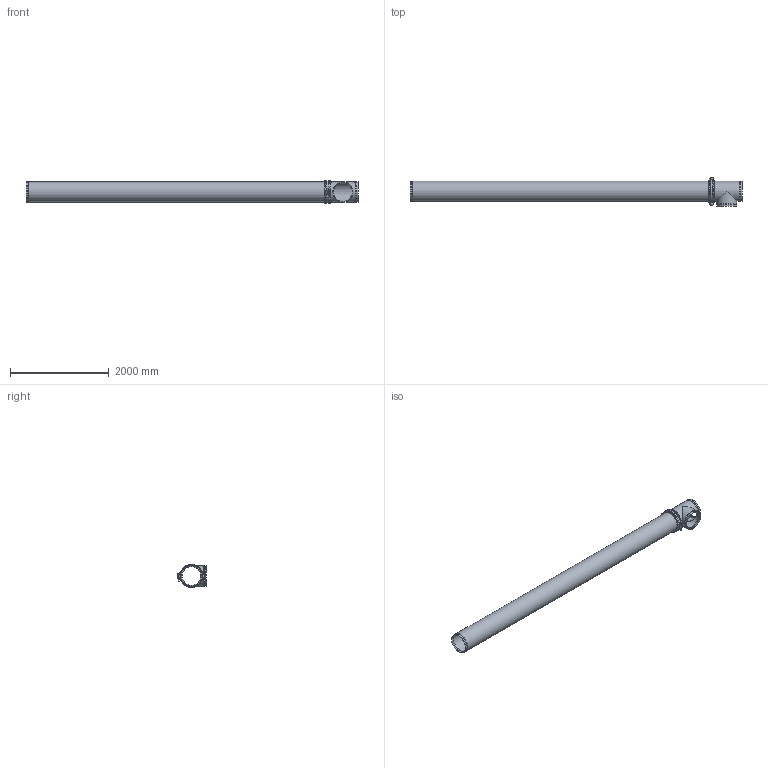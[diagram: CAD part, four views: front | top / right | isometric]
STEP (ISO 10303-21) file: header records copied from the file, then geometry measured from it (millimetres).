
FILE_DESCRIPTION(/* description */ ('VIC AGS LONG RUN FITTING No WR22 (AGS)','CAx-IF Rec.Pracs.---Representation and Presentation of Product Manufacturing Information (PMI)---4.0---2014-10-13'),/* implementation_level */ '2;1');
FILE_NAME(/* name */ 'C:\Users\kkamble\AppData\Roaming\Autodesk\ApplicationPlugins\Back Up\Victaulic_AGS_Long Run Fittings_No WR22 (AGS)\Victaulic_AGS_Long Run Fittings_No WR22 (AGS)_16 (400).stp',/* time_stamp */ '2020-10-07T02:49:26+05:00',/* author */ ('kkamble'),/* organization */ ('Victaulic'),/* preprocessor_version */ 'ST-DEVELOPER v17.2',/* originating_system */ 'Autodesk Inventor 2019',/* authorisation */ '');
FILE_SCHEMA (('AP242_MANAGED_MODEL_BASED_3D_ENGINEERING_MIM_LF { 1 0 10303 442 1 1 4 }'));
Length unit declared in the file: inch
Products named in the file (4): WR22-16.0; WR22-16.0_1; W77-16.0; W20-16.0
Assembly tree (3 placements, depth 2):
  WR22-16.0
    WR22-16.0_1
    W77-16.0
    W20-16.0
Bounding box: 6713.47 x 584.2 x 463.46 mm (x, y, z)
Volume: 85112664.5 mm3; surface area: 17450414 mm2
Topology: 3 solids, 5 shells, 308 faces, 917 edges, 633 vertices
Faces by surface type: cylinder 129, plane 108, torus 56, cone 13, sphere 2
Full cylindrical faces by diameter (mm): 25.4 x4, 42.85 x2, 374.65 x3, 381 x1, 387.35 x6, 393.7 x5, 406.4 x10
Entity records: 12948 total; most frequent: CARTESIAN_POINT 4087, ORIENTED_EDGE 1834, DIRECTION 1764, EDGE_CURVE 917, AXIS2_PLACEMENT_3D 724, VERTEX_POINT 633, CIRCLE 399, EDGE_LOOP 334
